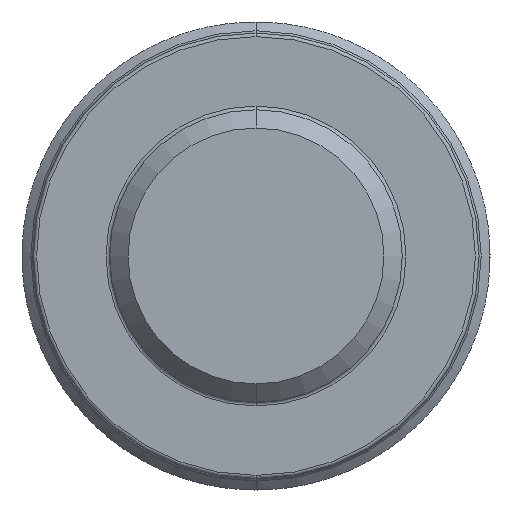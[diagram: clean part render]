
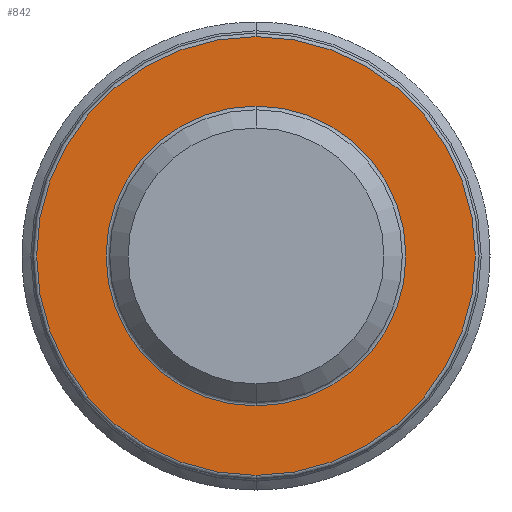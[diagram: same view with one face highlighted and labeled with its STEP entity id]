
A CAD part, front view. The second image highlights one B-rep face of the part: STEP entity #842.
In plain terms, the highlighted planar face has unit normal (0, -1, 0).
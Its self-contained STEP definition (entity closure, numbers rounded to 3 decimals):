
#410 = VERTEX_POINT ( 'NONE', #5381 ) ;
#457 = DIRECTION ( 'NONE',  ( 0., 0., -1. ) ) ;
#519 = CIRCLE ( 'NONE', #6716, 4.1 ) ;
#842 = ADVANCED_FACE ( 'NONE', ( #4234, #3566 ), #6126, .T. ) ;
#955 = EDGE_CURVE ( 'NONE', #7862, #7223, #2043, .T. ) ;
#992 = CARTESIAN_POINT ( 'NONE',  ( 0., -8., -4.1 ) ) ;
#1008 = DIRECTION ( 'NONE',  ( 0., 0., -1. ) ) ;
#1097 = AXIS2_PLACEMENT_3D ( 'NONE', #3020, #4319, #4871 ) ;
#1412 = DIRECTION ( 'NONE',  ( 0., -1., 0. ) ) ;
#1773 = AXIS2_PLACEMENT_3D ( 'NONE', #2929, #6790, #1008 ) ;
#1826 = DIRECTION ( 'NONE',  ( 0., -1., 0. ) ) ;
#1904 = EDGE_CURVE ( 'NONE', #5393, #410, #7293, .T. ) ;
#2022 = CARTESIAN_POINT ( 'NONE',  ( 0., -8., 0. ) ) ;
#2043 = CIRCLE ( 'NONE', #6476, 6. ) ;
#2929 = CARTESIAN_POINT ( 'NONE',  ( 4., -8., 0. ) ) ;
#3020 = CARTESIAN_POINT ( 'NONE',  ( 0., -8., 0. ) ) ;
#3046 = EDGE_CURVE ( 'NONE', #410, #5393, #519, .T. ) ;
#3053 = CARTESIAN_POINT ( 'NONE',  ( 0., -8., 0. ) ) ;
#3406 = CARTESIAN_POINT ( 'NONE',  ( 0., -8., -6. ) ) ;
#3566 = FACE_OUTER_BOUND ( 'NONE', #4859, .T. ) ;
#4091 = ORIENTED_EDGE ( 'NONE', *, *, #955, .T. ) ;
#4126 = ORIENTED_EDGE ( 'NONE', *, *, #3046, .T. ) ;
#4234 = FACE_BOUND ( 'NONE', #5553, .T. ) ;
#4315 = EDGE_CURVE ( 'NONE', #7223, #7862, #7813, .T. ) ;
#4319 = DIRECTION ( 'NONE',  ( 0., 1., 0. ) ) ;
#4328 = DIRECTION ( 'NONE',  ( 0., 1., 0. ) ) ;
#4859 = EDGE_LOOP ( 'NONE', ( #6739, #4091 ) ) ;
#4871 = DIRECTION ( 'NONE',  ( 0., 0., -1. ) ) ;
#5084 = CARTESIAN_POINT ( 'NONE',  ( 0., -8., 0. ) ) ;
#5232 = ORIENTED_EDGE ( 'NONE', *, *, #1904, .T. ) ;
#5269 = AXIS2_PLACEMENT_3D ( 'NONE', #3053, #1826, #457 ) ;
#5381 = CARTESIAN_POINT ( 'NONE',  ( 0., -8., 4.1 ) ) ;
#5393 = VERTEX_POINT ( 'NONE', #992 ) ;
#5553 = EDGE_LOOP ( 'NONE', ( #5232, #4126 ) ) ;
#6126 = PLANE ( 'NONE',  #1773 ) ;
#6476 = AXIS2_PLACEMENT_3D ( 'NONE', #2022, #1412, #7745 ) ;
#6716 = AXIS2_PLACEMENT_3D ( 'NONE', #5084, #4328, #7651 ) ;
#6739 = ORIENTED_EDGE ( 'NONE', *, *, #4315, .T. ) ;
#6790 = DIRECTION ( 'NONE',  ( 0., -1., 0. ) ) ;
#7223 = VERTEX_POINT ( 'NONE', #3406 ) ;
#7293 = CIRCLE ( 'NONE', #1097, 4.1 ) ;
#7651 = DIRECTION ( 'NONE',  ( 0., 0., -1. ) ) ;
#7745 = DIRECTION ( 'NONE',  ( 0., 0., -1. ) ) ;
#7808 = CARTESIAN_POINT ( 'NONE',  ( 0., -8., 6. ) ) ;
#7813 = CIRCLE ( 'NONE', #5269, 6. ) ;
#7862 = VERTEX_POINT ( 'NONE', #7808 ) ;
